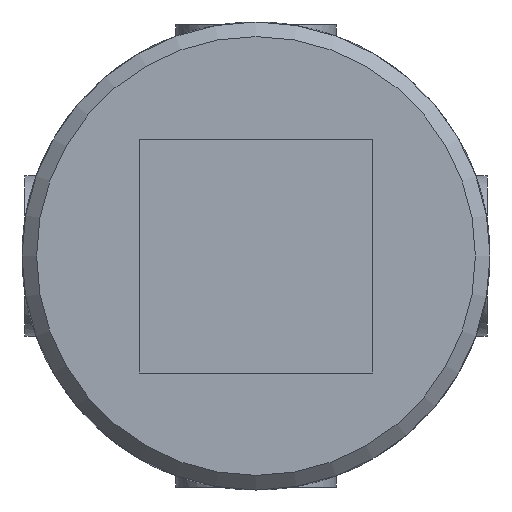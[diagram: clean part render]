
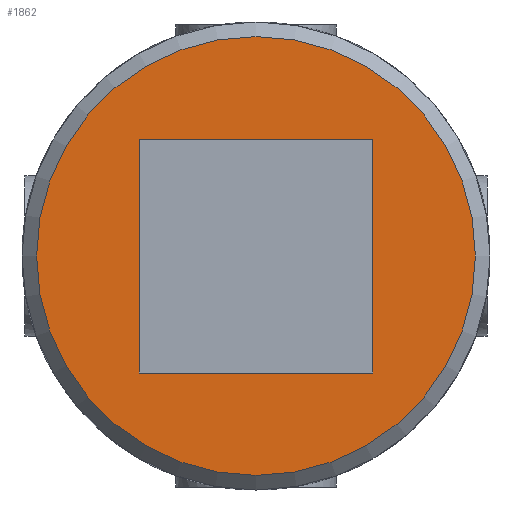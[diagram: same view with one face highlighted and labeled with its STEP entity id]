
A CAD part, front view. The second image highlights one B-rep face of the part: STEP entity #1862.
In plain terms, the highlighted planar face has unit normal (0, -1, 0).
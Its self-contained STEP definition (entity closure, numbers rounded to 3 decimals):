
#112=LINE('',#3498,#176);
#116=LINE('',#3521,#180);
#122=LINE('',#3559,#186);
#125=LINE('',#3579,#189);
#176=VECTOR('',#2439,16.);
#180=VECTOR('',#2447,16.);
#186=VECTOR('',#2455,16.);
#189=VECTOR('',#2462,16.);
#240=PLANE('',#2058);
#409=FACE_BOUND('',#658,.T.);
#505=FACE_OUTER_BOUND('',#657,.T.);
#657=EDGE_LOOP('',(#1619));
#658=EDGE_LOOP('',(#1620,#1621,#1622,#1623));
#762=CIRCLE('',#2056,15.);
#899=VERTEX_POINT('',#3495);
#900=VERTEX_POINT('',#3497);
#906=VERTEX_POINT('',#3520);
#915=VERTEX_POINT('',#3557);
#922=VERTEX_POINT('',#3626);
#1127=EDGE_CURVE('',#900,#899,#112,.T.);
#1134=EDGE_CURVE('',#906,#900,#116,.T.);
#1144=EDGE_CURVE('',#899,#915,#122,.T.);
#1150=EDGE_CURVE('',#915,#906,#125,.T.);
#1161=EDGE_CURVE('',#922,#922,#762,.T.);
#1619=ORIENTED_EDGE('',*,*,#1161,.F.);
#1620=ORIENTED_EDGE('',*,*,#1127,.T.);
#1621=ORIENTED_EDGE('',*,*,#1144,.T.);
#1622=ORIENTED_EDGE('',*,*,#1150,.T.);
#1623=ORIENTED_EDGE('',*,*,#1134,.T.);
#1862=ADVANCED_FACE('',(#505,#409),#240,.F.);
#2056=AXIS2_PLACEMENT_3D('',#3627,#2491,#2492);
#2058=AXIS2_PLACEMENT_3D('',#3839,#2499,#2500);
#2439=DIRECTION('',(0.,0.,-1.));
#2447=DIRECTION('',(1.,0.,0.));
#2455=DIRECTION('',(-1.,0.,0.));
#2462=DIRECTION('',(0.,0.,1.));
#2491=DIRECTION('center_axis',(0.,1.,0.));
#2492=DIRECTION('ref_axis',(1.,0.,0.));
#2499=DIRECTION('center_axis',(0.,1.,0.));
#2500=DIRECTION('ref_axis',(0.,0.,1.));
#3495=CARTESIAN_POINT('',(8.,-51.,-8.));
#3497=CARTESIAN_POINT('',(8.,-51.,8.));
#3498=CARTESIAN_POINT('',(8.,-51.,4.));
#3520=CARTESIAN_POINT('',(-8.,-51.,8.));
#3521=CARTESIAN_POINT('',(-4.,-51.,8.));
#3557=CARTESIAN_POINT('',(-8.,-51.,-8.));
#3559=CARTESIAN_POINT('',(4.,-51.,-8.));
#3579=CARTESIAN_POINT('',(-8.,-51.,-4.));
#3626=CARTESIAN_POINT('',(-15.,-51.,0.));
#3627=CARTESIAN_POINT('Origin',(0.,-51.,0.));
#3839=CARTESIAN_POINT('Origin',(0.,-51.,0.));
